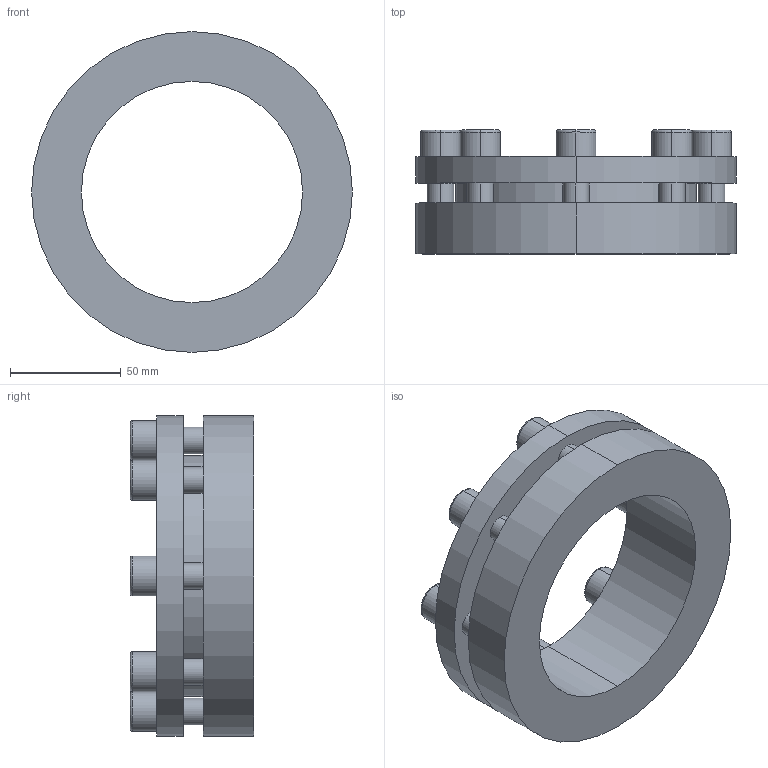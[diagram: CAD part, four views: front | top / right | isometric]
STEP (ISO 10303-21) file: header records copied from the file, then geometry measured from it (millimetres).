
FILE_DESCRIPTION (( 'STEP AP203' ), '1' );
FILE_NAME ('PL-H3 100-145.STEP', '2021-10-23T01:10:00', ( '' ), ( '' ), 'SwSTEP 2.0', 'SolidWorks 2018', '' );
FILE_SCHEMA (( 'CONFIG_CONTROL_DESIGN' ));
Length unit declared in the file: millimetre
Products named in the file (1): PL-H3 100-145
Bounding box: 145 x 56 x 145 mm (x, y, z)
Volume: 344682 mm3; surface area: 72328.4 mm2
Topology: 1 solids, 1 shells, 124 faces, 296 edges, 192 vertices
Faces by surface type: plane 68, cylinder 40, torus 16
Entity records: 3717 total; most frequent: DIRECTION 658, CARTESIAN_POINT 613, ORIENTED_EDGE 592, EDGE_CURVE 296, AXIS2_PLACEMENT_3D 237, VERTEX_POINT 192, LINE 184, VECTOR 184
